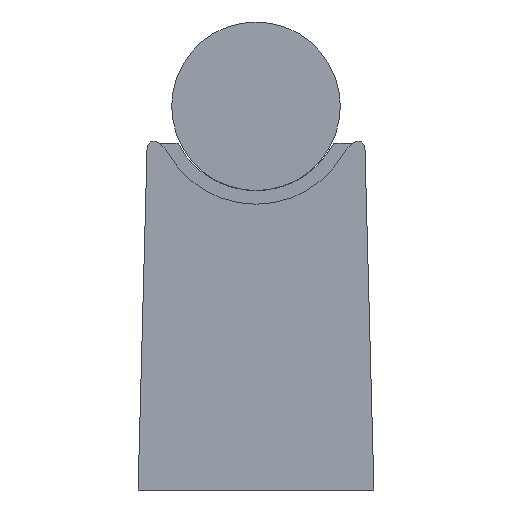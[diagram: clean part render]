
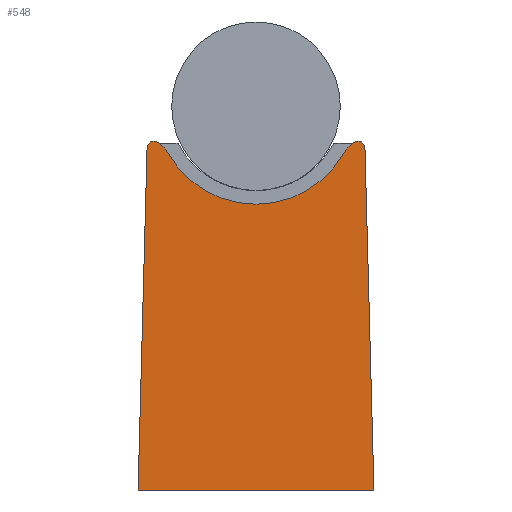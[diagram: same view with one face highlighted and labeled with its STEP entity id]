
A CAD part, left-side view. The second image highlights one B-rep face of the part: STEP entity #548.
In plain terms, the highlighted planar face has unit normal (-1, 0, 0).
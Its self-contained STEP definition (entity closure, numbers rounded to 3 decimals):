
#50=PLANE('',#621);
#82=FACE_OUTER_BOUND('',#120,.T.);
#120=EDGE_LOOP('',(#473,#474,#475,#476,#477,#478,#479,#480));
#146=LINE('',#920,#182);
#155=LINE('',#957,#191);
#157=LINE('',#960,#193);
#182=VECTOR('',#747,304.8);
#191=VECTOR('',#788,304.8);
#193=VECTOR('',#792,304.8);
#223=CIRCLE('',#606,0.996);
#225=CIRCLE('',#609,4.857);
#227=CIRCLE('',#612,15.005);
#229=CIRCLE('',#615,4.857);
#231=CIRCLE('',#618,0.996);
#267=VERTEX_POINT('',#917);
#268=VERTEX_POINT('',#919);
#270=VERTEX_POINT('',#925);
#272=VERTEX_POINT('',#931);
#274=VERTEX_POINT('',#937);
#276=VERTEX_POINT('',#943);
#278=VERTEX_POINT('',#949);
#280=VERTEX_POINT('',#955);
#329=EDGE_CURVE('',#268,#267,#146,.T.);
#333=EDGE_CURVE('',#267,#270,#223,.T.);
#336=EDGE_CURVE('',#270,#272,#225,.T.);
#339=EDGE_CURVE('',#272,#274,#227,.T.);
#342=EDGE_CURVE('',#274,#276,#229,.T.);
#345=EDGE_CURVE('',#276,#278,#231,.T.);
#348=EDGE_CURVE('',#278,#280,#155,.T.);
#350=EDGE_CURVE('',#280,#268,#157,.T.);
#473=ORIENTED_EDGE('',*,*,#329,.T.);
#474=ORIENTED_EDGE('',*,*,#333,.T.);
#475=ORIENTED_EDGE('',*,*,#336,.T.);
#476=ORIENTED_EDGE('',*,*,#339,.T.);
#477=ORIENTED_EDGE('',*,*,#342,.T.);
#478=ORIENTED_EDGE('',*,*,#345,.T.);
#479=ORIENTED_EDGE('',*,*,#348,.T.);
#480=ORIENTED_EDGE('',*,*,#350,.T.);
#548=ADVANCED_FACE('',(#82),#50,.T.);
#606=AXIS2_PLACEMENT_3D('',#927,#754,#755);
#609=AXIS2_PLACEMENT_3D('',#933,#761,#762);
#612=AXIS2_PLACEMENT_3D('',#939,#768,#769);
#615=AXIS2_PLACEMENT_3D('',#945,#775,#776);
#618=AXIS2_PLACEMENT_3D('',#951,#782,#783);
#621=AXIS2_PLACEMENT_3D('',#961,#793,#794);
#747=DIRECTION('',(0.,0.026,1.));
#754=DIRECTION('center_axis',(-1.,0.,0.));
#755=DIRECTION('ref_axis',(0.,1.,0.));
#761=DIRECTION('center_axis',(-1.,0.,0.));
#762=DIRECTION('ref_axis',(0.,1.,0.));
#768=DIRECTION('center_axis',(1.,0.,0.));
#769=DIRECTION('ref_axis',(0.,1.,0.));
#775=DIRECTION('center_axis',(-1.,0.,0.));
#776=DIRECTION('ref_axis',(0.,1.,0.));
#782=DIRECTION('center_axis',(-1.,0.,0.));
#783=DIRECTION('ref_axis',(0.,1.,0.));
#788=DIRECTION('',(0.,0.026,-1.));
#792=DIRECTION('',(0.,-1.,0.));
#793=DIRECTION('center_axis',(-1.,0.,0.));
#794=DIRECTION('ref_axis',(0.,-1.,0.));
#917=CARTESIAN_POINT('',(-29.103,-1016.158,50.789));
#919=CARTESIAN_POINT('',(-29.103,-1017.488,0.));
#920=CARTESIAN_POINT('',(-29.103,-1017.488,0.));
#925=CARTESIAN_POINT('',(-29.103,-1014.627,51.606));
#927=CARTESIAN_POINT('Origin',(-29.103,-1015.162,50.765));
#931=CARTESIAN_POINT('',(-29.103,-1012.995,49.908));
#933=CARTESIAN_POINT('Origin',(-29.103,-1017.237,47.509));
#937=CARTESIAN_POINT('',(-29.103,-986.991,49.9));
#939=CARTESIAN_POINT('Origin',(-29.103,-999.991,57.395));
#943=CARTESIAN_POINT('',(-29.103,-985.373,51.606));
#945=CARTESIAN_POINT('Origin',(-29.103,-982.763,47.509));
#949=CARTESIAN_POINT('',(-29.103,-983.842,50.791));
#951=CARTESIAN_POINT('Origin',(-29.103,-984.838,50.765));
#955=CARTESIAN_POINT('',(-29.103,-982.512,0.));
#957=CARTESIAN_POINT('',(-29.103,-983.842,50.791));
#960=CARTESIAN_POINT('',(-29.103,-982.512,0.));
#961=CARTESIAN_POINT('Origin',(-29.103,1148.641,0.));
